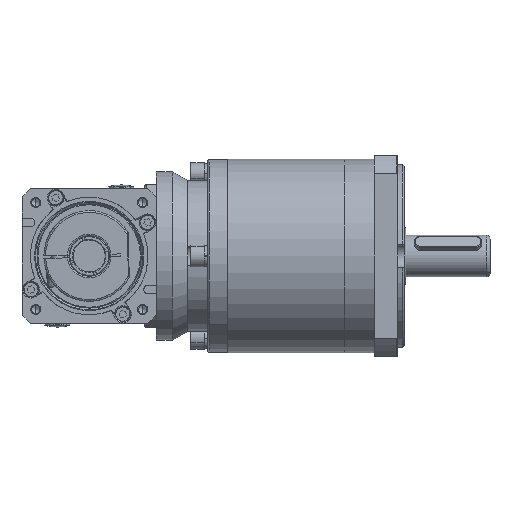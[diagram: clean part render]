
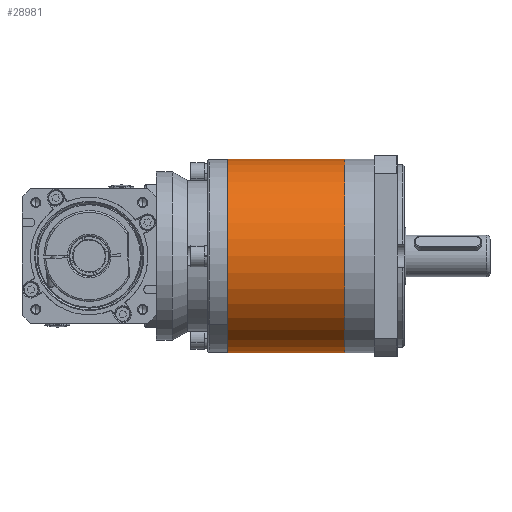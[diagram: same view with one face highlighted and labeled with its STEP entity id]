
A CAD part, front view. The second image highlights one B-rep face of the part: STEP entity #28981.
In plain terms, the highlighted cylindrical face has radius 57.5 mm (diameter 115 mm), a partial arc.
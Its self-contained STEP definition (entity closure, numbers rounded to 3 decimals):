
#1716 = VECTOR ( 'NONE', #44524, 1000. ) ;
#3680 = EDGE_CURVE ( 'NONE', #9943, #14402, #29654, .T. ) ;
#5891 = VERTEX_POINT ( 'NONE', #27502 ) ;
#6169 = DIRECTION ( 'NONE',  ( 1., 0., 0. ) ) ;
#6471 = CIRCLE ( 'NONE', #44611, 57.5 ) ;
#7678 = CARTESIAN_POINT ( 'NONE',  ( -35.5, 0., -57.5 ) ) ;
#8146 = VERTEX_POINT ( 'NONE', #8196 ) ;
#8196 = CARTESIAN_POINT ( 'NONE',  ( -35.5, 0., 57.5 ) ) ;
#8495 = LINE ( 'NONE', #15424, #1716 ) ;
#8531 = CARTESIAN_POINT ( 'NONE',  ( -35.5, 0., 0. ) ) ;
#9366 = DIRECTION ( 'NONE',  ( 0., 0., 1. ) ) ;
#9943 = VERTEX_POINT ( 'NONE', #43044 ) ;
#9986 = CARTESIAN_POINT ( 'NONE',  ( -35.5, 0., 0. ) ) ;
#11266 = DIRECTION ( 'NONE',  ( 1., 0., 0. ) ) ;
#11840 = FACE_OUTER_BOUND ( 'NONE', #15808, .T. ) ;
#13865 = AXIS2_PLACEMENT_3D ( 'NONE', #21858, #11266, #42847 ) ;
#13975 = ORIENTED_EDGE ( 'NONE', *, *, #17653, .F. ) ;
#14402 = VERTEX_POINT ( 'NONE', #18211 ) ;
#15424 = CARTESIAN_POINT ( 'NONE',  ( -35.5, 0., 57.5 ) ) ;
#15808 = EDGE_LOOP ( 'NONE', ( #33624, #13975, #21563, #23809 ) ) ;
#17653 = EDGE_CURVE ( 'NONE', #8146, #5891, #6471, .T. ) ;
#18211 = CARTESIAN_POINT ( 'NONE',  ( -105., 0., -57.5 ) ) ;
#20423 = AXIS2_PLACEMENT_3D ( 'NONE', #9986, #45043, #9366 ) ;
#21563 = ORIENTED_EDGE ( 'NONE', *, *, #32531, .T. ) ;
#21796 = CYLINDRICAL_SURFACE ( 'NONE', #20423, 57.5 ) ;
#21858 = CARTESIAN_POINT ( 'NONE',  ( -105., 0., 0. ) ) ;
#23809 = ORIENTED_EDGE ( 'NONE', *, *, #3680, .T. ) ;
#27502 = CARTESIAN_POINT ( 'NONE',  ( -35.5, 0., -57.5 ) ) ;
#27957 = VECTOR ( 'NONE', #32412, 1000. ) ;
#28981 = ADVANCED_FACE ( 'NONE', ( #11840 ), #21796, .T. ) ;
#29654 = CIRCLE ( 'NONE', #13865, 57.5 ) ;
#32412 = DIRECTION ( 'NONE',  ( -1., 0., 0. ) ) ;
#32531 = EDGE_CURVE ( 'NONE', #8146, #9943, #8495, .T. ) ;
#33550 = DIRECTION ( 'NONE',  ( 0., 0., -1. ) ) ;
#33624 = ORIENTED_EDGE ( 'NONE', *, *, #39407, .F. ) ;
#39407 = EDGE_CURVE ( 'NONE', #5891, #14402, #40252, .T. ) ;
#40252 = LINE ( 'NONE', #7678, #27957 ) ;
#42847 = DIRECTION ( 'NONE',  ( 0., 0., -1. ) ) ;
#43044 = CARTESIAN_POINT ( 'NONE',  ( -105., 0., 57.5 ) ) ;
#44524 = DIRECTION ( 'NONE',  ( -1., 0., 0. ) ) ;
#44611 = AXIS2_PLACEMENT_3D ( 'NONE', #8531, #6169, #33550 ) ;
#45043 = DIRECTION ( 'NONE',  ( -1., 0., 0. ) ) ;
